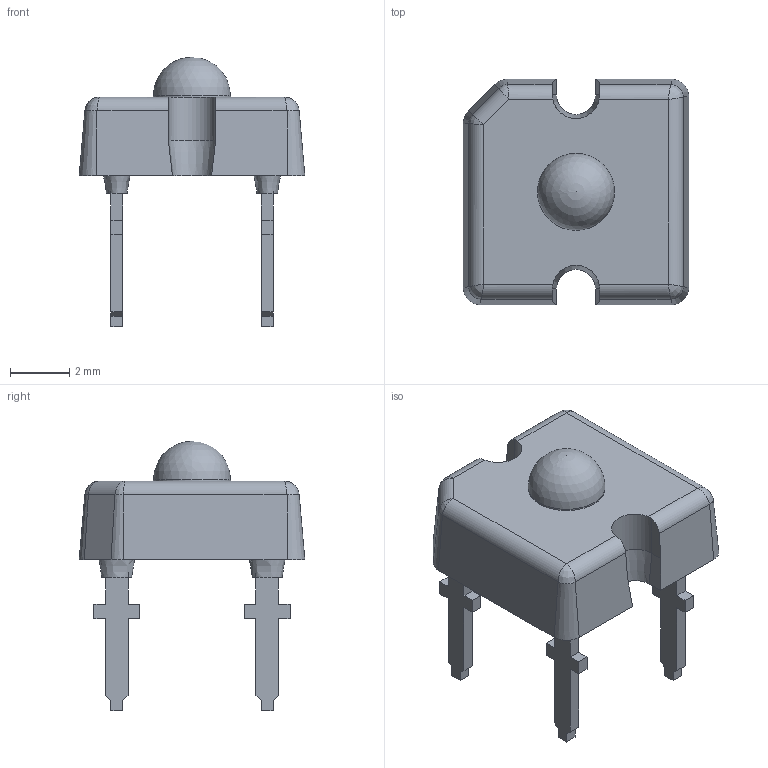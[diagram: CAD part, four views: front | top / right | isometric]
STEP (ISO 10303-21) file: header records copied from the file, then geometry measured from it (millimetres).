
FILE_DESCRIPTION(/* description */ ('Telux'),/* implementation_level */ '2;1');
FILE_NAME(/* name */ 'C:\Users\mmangarudov\OneDrive - Vishay Intertechnology, Inc\Visibles\VLWx993x_6.544-5392.1.stp',/* time_stamp */ '2023-11-07T07:37:39+01:00',/* author */ ('mmangarudov'),/* organization */ (''),/* preprocessor_version */ 'ST-DEVELOPER v18.1',/* originating_system */ 'Autodesk Inventor 2022',/* authorisation */ '');
FILE_SCHEMA (('AUTOMOTIVE_DESIGN { 1 0 10303 214 3 1 1 }'));
Length unit declared in the file: millimetre
Products named in the file (3): 6.544-5427-3D; 6.544-5427-3D-Gehäuse; 6.544-5427-3D-Beinchen
Assembly tree (5 placements, depth 2):
  6.544-5427-3D
    6.544-5427-3D-Gehäuse
    6.544-5427-3D-Beinchen  x4
Bounding box: 7.62 x 7.62 x 9.1 mm (x, y, z)
Volume: 146.2 mm3; surface area: 247.1 mm2
Topology: 5 solids, 5 shells, 120 faces, 304 edges, 193 vertices
Faces by surface type: plane 93, cylinder 10, bspline 9, cone 7, sphere 1
Full cylindrical faces by diameter (mm): 2.6 x1
Entity records: 2555 total; most frequent: CARTESIAN_POINT 977, ORIENTED_EDGE 308, DIRECTION 284, EDGE_CURVE 154, LINE 108, VECTOR 108, VERTEX_POINT 97, AXIS2_PLACEMENT_3D 88
